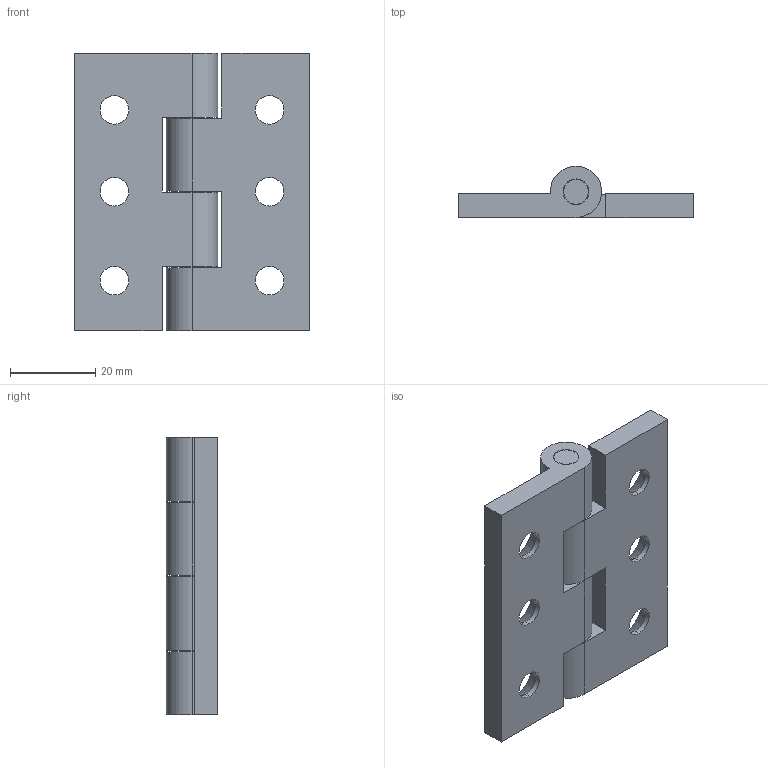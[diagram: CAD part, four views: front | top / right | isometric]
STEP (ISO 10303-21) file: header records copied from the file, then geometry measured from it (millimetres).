
FILE_DESCRIPTION (( 'STEP AP203' ), '1' );
FILE_NAME ('XG02-042-2.STEP', '2023-12-07T08:49:18', ( '' ), ( '' ), 'SwSTEP 2.0', 'SolidWorks 2020', '' );
FILE_SCHEMA (( 'CONFIG_CONTROL_DESIGN' ));
Length unit declared in the file: millimetre
Products named in the file (1): XG02-042-2
Bounding box: 55 x 12 x 65 mm (x, y, z)
Volume: 20413.3 mm3; surface area: 12594.2 mm2
Topology: 3 solids, 3 shells, 68 faces, 174 edges, 112 vertices
Faces by surface type: cylinder 34, plane 22, cone 12
Entity records: 2195 total; most frequent: DIRECTION 392, CARTESIAN_POINT 355, ORIENTED_EDGE 348, EDGE_CURVE 174, AXIS2_PLACEMENT_3D 149, VERTEX_POINT 112, VECTOR 94, LINE 94
